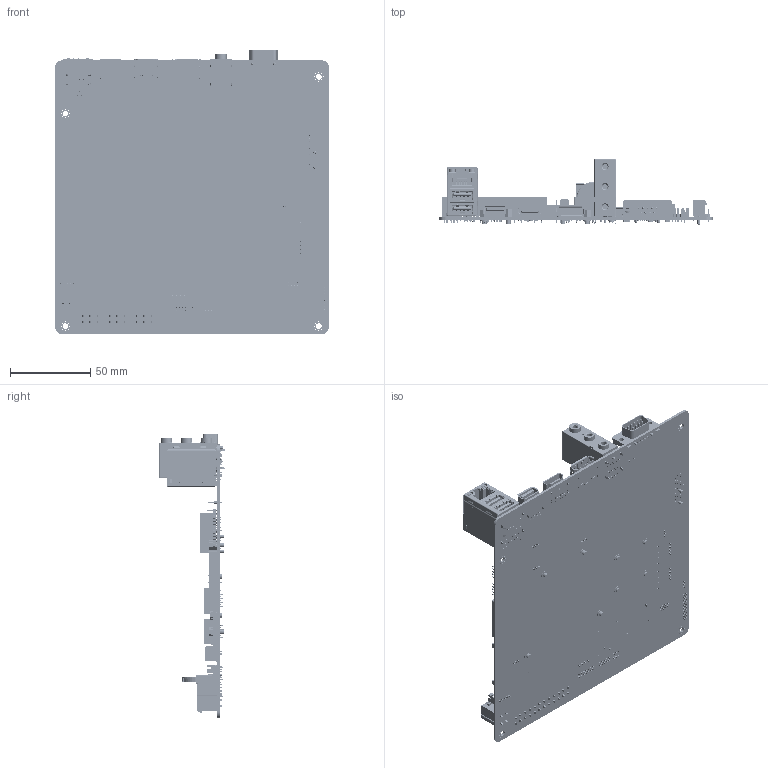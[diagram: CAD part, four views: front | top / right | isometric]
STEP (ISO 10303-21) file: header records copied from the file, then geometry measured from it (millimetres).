
FILE_DESCRIPTION((''),'2;1');
FILE_NAME('00-EEV-Q702_ASM','2018-09-17T10:29:49',('frank_lu'),(''),'CREO PARAMETRIC BY PTC INC, 2017110','CREO PARAMETRIC BY PTC INC, 2017110','');
FILE_SCHEMA(('CONFIG_CONTROL_DESIGN','GEOMETRIC_VALIDATION_PROPERTIES_MIM'));
Products named in the file (115): MINI_ITX-PCB; RU1-P116; RU1USBPINBEND_3_20_RU1-C160; RU1USBPINBEND_3_20_RU1-C160-1; RU1USBPINBEND_3_20_RU1-C160-2; RU1USBPINBEND_3_20_RU1-C160-3; RU1USBPINBEND_3_20RU1-C150; RU1USBPINBEND_3_20RU1-C150-1; RU1USBPINBEND_3_20RU1-C150-2; RU1USBPINBEND_3_20RU1-C150-3; RU1-S131; RU1-S131-1; RU1-S140_COPY_OF___; RUX-PCB__RU1-1G; RU1-P12X; RU1-C130; RU1-C130-1; RU1-C130-2; RU1-C130-3; RU1-C130-4; RU1-C120; RU1-C120-1; RU1-C120-2; RU1-C120-3; RU1-C120-4; RU1-C140; RU1-C140-1; RU1-C140-2; RU1-C140-3; RU1-C110PINBEND__RU1-C110-L4; RU1-C110PINBEND_RU1-C110-L3; RU1-C110PINBEND_RU1-C110-L2; RU1-C110PINBEND_RU1-C110-L1; RU1-C110PINBEND; RU1-C110PINBEND_RU1-C110-R2; RU1-C110PINBEND_RU1-C110-R3; RU1-C110PINBEND_RU1-C110-R4; LED-1; LED-2; RU1-S120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
Assembly tree (137 placements, depth 3):
  00-EEV-Q702_ASM
    MINI_ITX-PCB
    E1652522309R_ASM
      RU1-P116
      RU1USBPINBEND_3_20_RU1-C160
      RU1USBPINBEND_3_20_RU1-C160-1
      RU1USBPINBEND_3_20_RU1-C160-2
      RU1USBPINBEND_3_20_RU1-C160-3
      RU1USBPINBEND_3_20RU1-C150
      RU1USBPINBEND_3_20RU1-C150-1
      RU1USBPINBEND_3_20RU1-C150-2
      RU1USBPINBEND_3_20RU1-C150-3
      RU1-S131
      RU1-S131-1
      RU1-S140_COPY_OF___
      RUX-PCB__RU1-1G
      RU1-P12X
      RU1-C130
      RU1-C130-1
      RU1-C130-2
      RU1-C130-3
      RU1-C130-4
      RU1-C120
      RU1-C120-1
      RU1-C120-2
      RU1-C120-3
      RU1-C120-4
      RU1-C140
      RU1-C140-1
      RU1-C140-2
      RU1-C140-3
      RU1-C110PINBEND__RU1-C110-L4
      RU1-C110PINBEND_RU1-C110-L3
      RU1-C110PINBEND_RU1-C110-L2
      RU1-C110PINBEND_RU1-C110-L1
      RU1-C110PINBEND
      RU1-C110PINBEND_RU1-C110-R2
      RU1-C110PINBEND_RU1-C110-R3
      RU1-C110PINBEND_RU1-C110-R4
      LED-1
      LED-2
      RU1-S120
      RU1-S21X_WO_SPRING
    E1654809300R
    E1654419305R
    E1654420301H_ASM
      MSBR-42
      MSBR-41
      MSBR-40
      MSBR-39
      MSBR-38
      MSBR-37
      MSBR-36
      MSBR-35
      MSBR-34
      MSBR-33
      MSBR-32
      MSBR-31
      MSBR-30
      MSBR-29
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Bounding box: 170 x 40.8 x 176.5 mm (x, y, z)
Volume: 81463.4 mm3; surface area: 117896.4 mm2
Topology: 156 solids, 183 shells, 15665 faces, 41865 edges, 26872 vertices
Faces by surface type: plane 12290, cylinder 2700, bspline 295, torus 249, extrusion 59, cone 38, sphere 34
Entity records: 531573 total; most frequent: CARTESIAN_POINT 92571, ORIENTED_EDGE 75902, DIRECTION 71334, EDGE_CURVE 38417, VECTOR 31946, LINE 31887, VERTEX_POINT 24656, AXIS2_PLACEMENT_3D 19694
